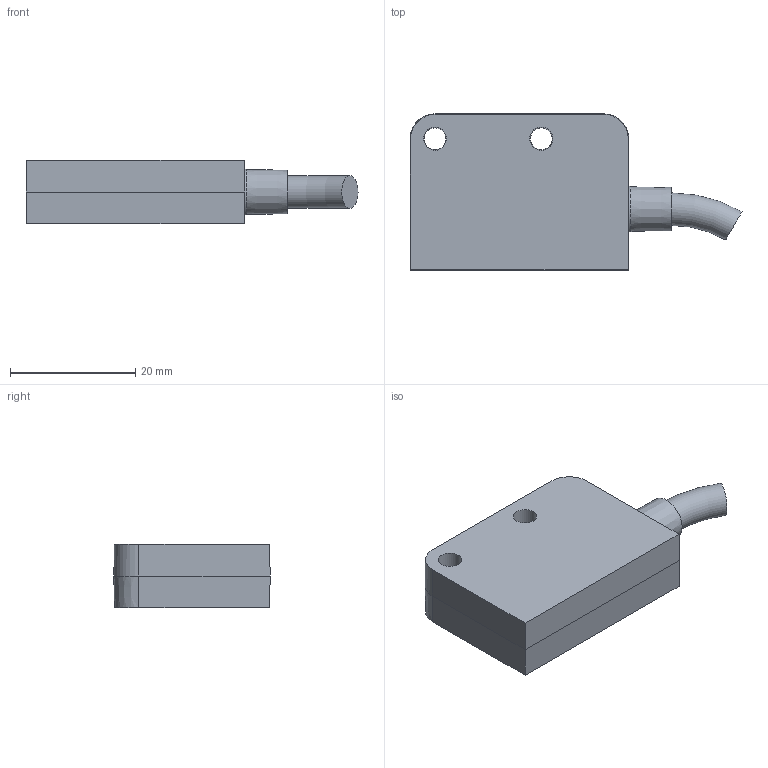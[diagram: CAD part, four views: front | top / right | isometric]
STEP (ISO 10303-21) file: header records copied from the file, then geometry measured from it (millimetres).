
FILE_DESCRIPTION((''),'2;1');
FILE_NAME('K:\Daten\PMIS4.stp','2009-06-18T09:31:06',('kamp'),(''),'Autodesk Inventor 2008','Autodesk Inventor 2008','');
FILE_SCHEMA(('AUTOMOTIVE_DESIGN { 1 0 10303 214 1 1 1 1 }'));
Length unit declared in the file: millimetre
Products named in the file (1): Bauteil11
Bounding box: 53.1 x 25 x 10.2 mm (x, y, z)
Volume: 9028.1 mm3; surface area: 3477.6 mm2
Topology: 1 solids, 1 shells, 107 faces, 280 edges, 184 vertices
Faces by surface type: plane 71, cylinder 20, bspline 10, cone 5, torus 1
Entity records: 3349 total; most frequent: CARTESIAN_POINT 690, ORIENTED_EDGE 544, DIRECTION 525, EDGE_CURVE 272, VECTOR 215, LINE 215, VERTEX_POINT 183, AXIS2_PLACEMENT_3D 155
